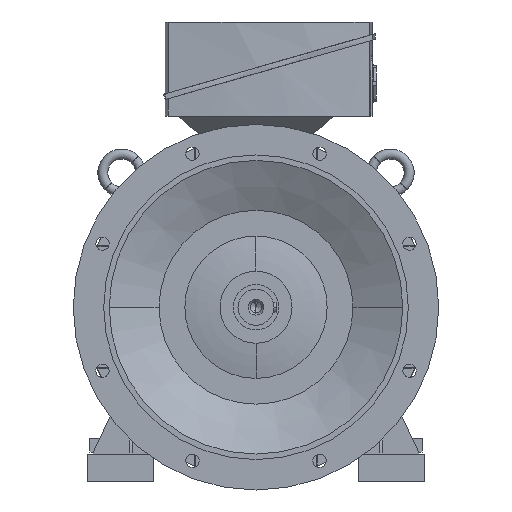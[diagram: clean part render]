
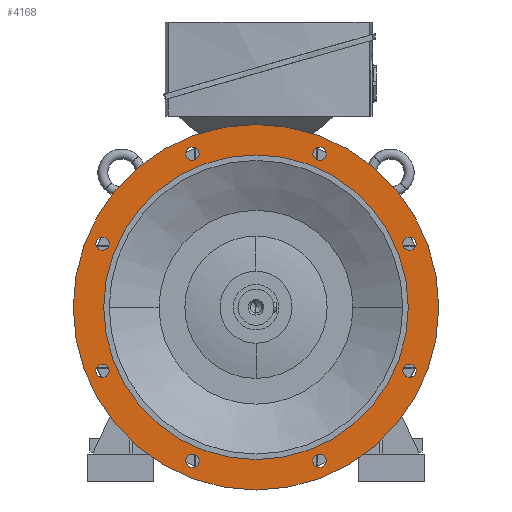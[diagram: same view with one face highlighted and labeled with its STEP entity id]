
A CAD part, left-side view. The second image highlights one B-rep face of the part: STEP entity #4168.
In plain terms, the highlighted planar face has unit normal (-1, 0, 0).
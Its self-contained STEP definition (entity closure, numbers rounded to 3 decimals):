
#4168=ADVANCED_FACE('',(#8394,#8395,#8396,#8397,#8398,#8399,#8400,#8401,#8402,#8403),#8404,.T.);
#8394=FACE_BOUND('',#12643,.T.);
#8395=FACE_BOUND('',#12644,.T.);
#8396=FACE_BOUND('',#12645,.T.);
#8397=FACE_BOUND('',#12646,.T.);
#8398=FACE_BOUND('',#12647,.T.);
#8399=FACE_BOUND('',#12648,.T.);
#8400=FACE_BOUND('',#12649,.T.);
#8401=FACE_BOUND('',#12650,.T.);
#8402=FACE_OUTER_BOUND('',#12651,.T.);
#8403=FACE_BOUND('',#12652,.T.);
#8404=PLANE('',#12653);
#12643=EDGE_LOOP('',(#25909,#25910));
#12644=EDGE_LOOP('',(#25911,#25912));
#12645=EDGE_LOOP('',(#25913,#25914));
#12646=EDGE_LOOP('',(#25915,#25916));
#12647=EDGE_LOOP('',(#25917,#25918));
#12648=EDGE_LOOP('',(#25919,#25920));
#12649=EDGE_LOOP('',(#25921,#25922));
#12650=EDGE_LOOP('',(#25923,#25924));
#12651=EDGE_LOOP('',(#25925,#25926));
#12652=EDGE_LOOP('',(#25927,#25928));
#12653=AXIS2_PLACEMENT_3D('',#25929,#25930,#25931);
#25909=ORIENTED_EDGE('',*,*,#31154,.T.);
#25910=ORIENTED_EDGE('',*,*,#26215,.T.);
#25911=ORIENTED_EDGE('',*,*,#31157,.T.);
#25912=ORIENTED_EDGE('',*,*,#26210,.T.);
#25913=ORIENTED_EDGE('',*,*,#31160,.T.);
#25914=ORIENTED_EDGE('',*,*,#26205,.T.);
#25915=ORIENTED_EDGE('',*,*,#31163,.T.);
#25916=ORIENTED_EDGE('',*,*,#26200,.T.);
#25917=ORIENTED_EDGE('',*,*,#31166,.T.);
#25918=ORIENTED_EDGE('',*,*,#26195,.T.);
#25919=ORIENTED_EDGE('',*,*,#31169,.T.);
#25920=ORIENTED_EDGE('',*,*,#26190,.T.);
#25921=ORIENTED_EDGE('',*,*,#31172,.T.);
#25922=ORIENTED_EDGE('',*,*,#26185,.T.);
#25923=ORIENTED_EDGE('',*,*,#31175,.T.);
#25924=ORIENTED_EDGE('',*,*,#26180,.T.);
#25925=ORIENTED_EDGE('',*,*,#26144,.F.);
#25926=ORIENTED_EDGE('',*,*,#31235,.F.);
#25927=ORIENTED_EDGE('',*,*,#26151,.T.);
#25928=ORIENTED_EDGE('',*,*,#31233,.T.);
#25929=CARTESIAN_POINT('',(-110.0,302.5,0.0));
#25930=DIRECTION('',(-1.0,0.0,0.0));
#25931=DIRECTION('',(0.0,-1.0,0.0));
#26144=EDGE_CURVE('',#31501,#31504,#31505,.T.);
#26151=EDGE_CURVE('',#31511,#31515,#31517,.T.);
#26180=EDGE_CURVE('',#31566,#31563,#31567,.T.);
#26185=EDGE_CURVE('',#31575,#31572,#31576,.T.);
#26190=EDGE_CURVE('',#31584,#31581,#31585,.T.);
#26195=EDGE_CURVE('',#31593,#31590,#31594,.T.);
#26200=EDGE_CURVE('',#31602,#31599,#31603,.T.);
#26205=EDGE_CURVE('',#31611,#31608,#31612,.T.);
#26210=EDGE_CURVE('',#31620,#31617,#31621,.T.);
#26215=EDGE_CURVE('',#31629,#31626,#31630,.T.);
#31154=EDGE_CURVE('',#31626,#31629,#39003,.T.);
#31157=EDGE_CURVE('',#31617,#31620,#39006,.T.);
#31160=EDGE_CURVE('',#31608,#31611,#39009,.T.);
#31163=EDGE_CURVE('',#31599,#31602,#39012,.T.);
#31166=EDGE_CURVE('',#31590,#31593,#39015,.T.);
#31169=EDGE_CURVE('',#31581,#31584,#39018,.T.);
#31172=EDGE_CURVE('',#31572,#31575,#39021,.T.);
#31175=EDGE_CURVE('',#31563,#31566,#39024,.T.);
#31233=EDGE_CURVE('',#31515,#31511,#39082,.T.);
#31235=EDGE_CURVE('',#31504,#31501,#39084,.T.);
#31501=VERTEX_POINT('',#39654);
#31504=VERTEX_POINT('',#39658);
#31505=CIRCLE('',#39659,330.0);
#31511=VERTEX_POINT('',#39666);
#31515=VERTEX_POINT('',#39671);
#31517=CIRCLE('',#39674,275.0);
#31563=VERTEX_POINT('',#39728);
#31566=VERTEX_POINT('',#39732);
#31567=CIRCLE('',#39733,12.0);
#31572=VERTEX_POINT('',#39739);
#31575=VERTEX_POINT('',#39743);
#31576=CIRCLE('',#39744,12.0);
#31581=VERTEX_POINT('',#39750);
#31584=VERTEX_POINT('',#39754);
#31585=CIRCLE('',#39755,12.0);
#31590=VERTEX_POINT('',#39761);
#31593=VERTEX_POINT('',#39765);
#31594=CIRCLE('',#39766,12.0);
#31599=VERTEX_POINT('',#39772);
#31602=VERTEX_POINT('',#39776);
#31603=CIRCLE('',#39777,12.0);
#31608=VERTEX_POINT('',#39783);
#31611=VERTEX_POINT('',#39787);
#31612=CIRCLE('',#39788,12.0);
#31617=VERTEX_POINT('',#39794);
#31620=VERTEX_POINT('',#39798);
#31621=CIRCLE('',#39799,12.0);
#31626=VERTEX_POINT('',#39805);
#31629=VERTEX_POINT('',#39809);
#31630=CIRCLE('',#39810,12.0);
#39003=CIRCLE('',#59047,12.0);
#39006=CIRCLE('',#59050,12.0);
#39009=CIRCLE('',#59053,12.0);
#39012=CIRCLE('',#59056,12.0);
#39015=CIRCLE('',#59059,12.0);
#39018=CIRCLE('',#59062,12.0);
#39021=CIRCLE('',#59065,12.0);
#39024=CIRCLE('',#59068,12.0);
#39082=CIRCLE('',#59142,275.0);
#39084=CIRCLE('',#59144,330.0);
#39654=CARTESIAN_POINT('',(-110.0,330.0,0.0));
#39658=CARTESIAN_POINT('',(-110.0,-330.0,0.));
#39659=AXIS2_PLACEMENT_3D('',#59300,#59301,#59302);
#39666=CARTESIAN_POINT('',(-110.0,275.0,0.0));
#39671=CARTESIAN_POINT('',(-110.0,-275.0,0.));
#39674=AXIS2_PLACEMENT_3D('',#59312,#59313,#59314);
#39728=CARTESIAN_POINT('',(-110.0,-119.397,288.25));
#39732=CARTESIAN_POINT('',(-110.0,-110.213,266.077));
#39733=AXIS2_PLACEMENT_3D('',#59363,#59364,#59365);
#39739=CARTESIAN_POINT('',(-110.0,119.397,288.25));
#39743=CARTESIAN_POINT('',(-110.0,110.213,266.077));
#39744=AXIS2_PLACEMENT_3D('',#59371,#59372,#59373);
#39750=CARTESIAN_POINT('',(-110.0,288.25,119.397));
#39754=CARTESIAN_POINT('',(-110.0,266.077,110.213));
#39755=AXIS2_PLACEMENT_3D('',#59379,#59380,#59381);
#39761=CARTESIAN_POINT('',(-110.0,288.25,-119.397));
#39765=CARTESIAN_POINT('',(-110.0,266.077,-110.213));
#39766=AXIS2_PLACEMENT_3D('',#59387,#59388,#59389);
#39772=CARTESIAN_POINT('',(-110.0,119.397,-288.25));
#39776=CARTESIAN_POINT('',(-110.0,110.213,-266.077));
#39777=AXIS2_PLACEMENT_3D('',#59395,#59396,#59397);
#39783=CARTESIAN_POINT('',(-110.0,-119.397,-288.25));
#39787=CARTESIAN_POINT('',(-110.0,-110.213,-266.077));
#39788=AXIS2_PLACEMENT_3D('',#59403,#59404,#59405);
#39794=CARTESIAN_POINT('',(-110.0,-288.25,-119.397));
#39798=CARTESIAN_POINT('',(-110.0,-266.077,-110.213));
#39799=AXIS2_PLACEMENT_3D('',#59411,#59412,#59413);
#39805=CARTESIAN_POINT('',(-110.0,-288.25,119.397));
#39809=CARTESIAN_POINT('',(-110.0,-266.077,110.213));
#39810=AXIS2_PLACEMENT_3D('',#59419,#59420,#59421);
#59047=AXIS2_PLACEMENT_3D('',#64524,#64525,#64526);
#59050=AXIS2_PLACEMENT_3D('',#64530,#64531,#64532);
#59053=AXIS2_PLACEMENT_3D('',#64536,#64537,#64538);
#59056=AXIS2_PLACEMENT_3D('',#64542,#64543,#64544);
#59059=AXIS2_PLACEMENT_3D('',#64548,#64549,#64550);
#59062=AXIS2_PLACEMENT_3D('',#64554,#64555,#64556);
#59065=AXIS2_PLACEMENT_3D('',#64560,#64561,#64562);
#59068=AXIS2_PLACEMENT_3D('',#64566,#64567,#64568);
#59142=AXIS2_PLACEMENT_3D('',#64609,#64610,#64611);
#59144=AXIS2_PLACEMENT_3D('',#64612,#64613,#64614);
#59300=CARTESIAN_POINT('',(-110.0,0.0,0.0));
#59301=DIRECTION('',(1.0,0.0,0.0));
#59302=DIRECTION('',(0.0,1.0,0.0));
#59312=CARTESIAN_POINT('',(-110.0,0.0,0.0));
#59313=DIRECTION('',(1.0,0.0,0.0));
#59314=DIRECTION('',(0.0,1.0,0.0));
#59363=CARTESIAN_POINT('',(-110.0,-114.805,277.164));
#59364=DIRECTION('',(1.0,0.0,-0.0));
#59365=DIRECTION('',(0.0,-0.383,0.924));
#59371=CARTESIAN_POINT('',(-110.0,114.805,277.164));
#59372=DIRECTION('',(1.0,0.0,-0.0));
#59373=DIRECTION('',(0.0,0.383,0.924));
#59379=CARTESIAN_POINT('',(-110.0,277.164,114.805));
#59380=DIRECTION('',(1.0,0.0,-0.0));
#59381=DIRECTION('',(0.0,0.924,0.383));
#59387=CARTESIAN_POINT('',(-110.0,277.164,-114.805));
#59388=DIRECTION('',(1.0,-0.0,0.0));
#59389=DIRECTION('',(0.0,0.924,-0.383));
#59395=CARTESIAN_POINT('',(-110.0,114.805,-277.164));
#59396=DIRECTION('',(1.0,-0.0,0.0));
#59397=DIRECTION('',(0.0,0.383,-0.924));
#59403=CARTESIAN_POINT('',(-110.0,-114.805,-277.164));
#59404=DIRECTION('',(1.0,0.0,0.0));
#59405=DIRECTION('',(0.0,-0.383,-0.924));
#59411=CARTESIAN_POINT('',(-110.0,-277.164,-114.805));
#59412=DIRECTION('',(1.0,0.0,0.0));
#59413=DIRECTION('',(0.0,-0.924,-0.383));
#59419=CARTESIAN_POINT('',(-110.0,-277.164,114.805));
#59420=DIRECTION('',(1.0,0.0,-0.0));
#59421=DIRECTION('',(0.0,-0.924,0.383));
#64524=CARTESIAN_POINT('',(-110.0,-277.164,114.805));
#64525=DIRECTION('',(1.0,0.0,-0.0));
#64526=DIRECTION('',(0.0,-0.924,0.383));
#64530=CARTESIAN_POINT('',(-110.0,-277.164,-114.805));
#64531=DIRECTION('',(1.0,0.0,0.0));
#64532=DIRECTION('',(0.0,-0.924,-0.383));
#64536=CARTESIAN_POINT('',(-110.0,-114.805,-277.164));
#64537=DIRECTION('',(1.0,0.0,0.0));
#64538=DIRECTION('',(0.0,-0.383,-0.924));
#64542=CARTESIAN_POINT('',(-110.0,114.805,-277.164));
#64543=DIRECTION('',(1.0,-0.0,0.0));
#64544=DIRECTION('',(0.0,0.383,-0.924));
#64548=CARTESIAN_POINT('',(-110.0,277.164,-114.805));
#64549=DIRECTION('',(1.0,-0.0,0.0));
#64550=DIRECTION('',(0.0,0.924,-0.383));
#64554=CARTESIAN_POINT('',(-110.0,277.164,114.805));
#64555=DIRECTION('',(1.0,0.0,-0.0));
#64556=DIRECTION('',(0.0,0.924,0.383));
#64560=CARTESIAN_POINT('',(-110.0,114.805,277.164));
#64561=DIRECTION('',(1.0,0.0,-0.0));
#64562=DIRECTION('',(0.0,0.383,0.924));
#64566=CARTESIAN_POINT('',(-110.0,-114.805,277.164));
#64567=DIRECTION('',(1.0,0.0,-0.0));
#64568=DIRECTION('',(0.0,-0.383,0.924));
#64609=CARTESIAN_POINT('',(-110.0,0.0,0.0));
#64610=DIRECTION('',(1.0,0.0,0.0));
#64611=DIRECTION('',(0.0,1.0,0.0));
#64612=CARTESIAN_POINT('',(-110.0,0.0,0.0));
#64613=DIRECTION('',(1.0,0.0,0.0));
#64614=DIRECTION('',(0.0,1.0,0.0));
